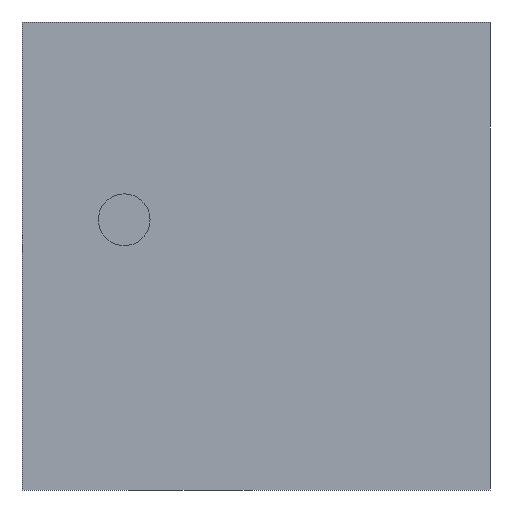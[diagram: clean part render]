
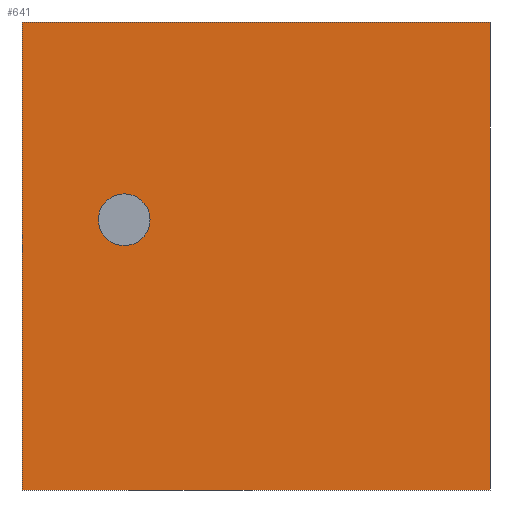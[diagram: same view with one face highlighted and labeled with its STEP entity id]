
A CAD part, front view. The second image highlights one B-rep face of the part: STEP entity #641.
In plain terms, the highlighted planar face has unit normal (0, -1, 0).
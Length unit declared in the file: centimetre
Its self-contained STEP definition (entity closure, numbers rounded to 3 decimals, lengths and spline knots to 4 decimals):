
#13 = DIRECTION ( 'NONE',  ( 0., 0., -1. ) ) ;
#24 = FACE_OUTER_BOUND ( 'NONE', #771, .T. ) ;
#42 = VECTOR ( 'NONE', #670, 100. ) ;
#56 = VECTOR ( 'NONE', #731, 100. ) ;
#93 = CARTESIAN_POINT ( 'NONE',  ( 0., 0., 0. ) ) ;
#113 = DIRECTION ( 'NONE',  ( 0., 0., 1. ) ) ;
#114 = CARTESIAN_POINT ( 'NONE',  ( 218.4011, 0., 577.5313 ) ) ;
#130 = CARTESIAN_POINT ( 'NONE',  ( 0., 0., 1000. ) ) ;
#131 = VERTEX_POINT ( 'NONE', #93 ) ;
#133 = CARTESIAN_POINT ( 'NONE',  ( 0., 0., 1000. ) ) ;
#157 = ORIENTED_EDGE ( 'NONE', *, *, #449, .F. ) ;
#175 = CARTESIAN_POINT ( 'NONE',  ( 1000., 0., 1000. ) ) ;
#181 = ORIENTED_EDGE ( 'NONE', *, *, #504, .F. ) ;
#184 = VERTEX_POINT ( 'NONE', #937 ) ;
#185 = LINE ( 'NONE', #991, #326 ) ;
#193 = EDGE_CURVE ( 'NONE', #184, #496, #1066, .T. ) ;
#220 = CIRCLE ( 'NONE', #865, 55.3124 ) ;
#245 = VECTOR ( 'NONE', #414, 100. ) ;
#311 = EDGE_CURVE ( 'NONE', #1058, #735, #325, .T. ) ;
#325 = LINE ( 'NONE', #984, #245 ) ;
#326 = VECTOR ( 'NONE', #543, 100. ) ;
#354 = EDGE_CURVE ( 'NONE', #131, #492, #185, .T. ) ;
#376 = DIRECTION ( 'NONE',  ( 0., 0., -1. ) ) ;
#412 = AXIS2_PLACEMENT_3D ( 'NONE', #114, #544, #13 ) ;
#414 = DIRECTION ( 'NONE',  ( 1., 0., 0. ) ) ;
#449 = EDGE_CURVE ( 'NONE', #735, #492, #1011, .T. ) ;
#492 = VERTEX_POINT ( 'NONE', #1017 ) ;
#496 = VERTEX_POINT ( 'NONE', #954 ) ;
#504 = EDGE_CURVE ( 'NONE', #496, #184, #220, .T. ) ;
#512 = EDGE_CURVE ( 'NONE', #1058, #131, #1110, .T. ) ;
#543 = DIRECTION ( 'NONE',  ( 1., 0., 0. ) ) ;
#544 = DIRECTION ( 'NONE',  ( 0., -1., 0. ) ) ;
#585 = DIRECTION ( 'NONE',  ( 0., -1., 0. ) ) ;
#597 = ORIENTED_EDGE ( 'NONE', *, *, #512, .T. ) ;
#641 = ADVANCED_FACE ( 'NONE', ( #751, #24 ), #662, .F. ) ;
#662 = PLANE ( 'NONE',  #962 ) ;
#670 = DIRECTION ( 'NONE',  ( 0., 0., -1. ) ) ;
#731 = DIRECTION ( 'NONE',  ( 0., 0., -1. ) ) ;
#735 = VERTEX_POINT ( 'NONE', #175 ) ;
#751 = FACE_BOUND ( 'NONE', #973, .T. ) ;
#771 = EDGE_LOOP ( 'NONE', ( #990, #157, #794, #597 ) ) ;
#794 = ORIENTED_EDGE ( 'NONE', *, *, #311, .F. ) ;
#802 = ORIENTED_EDGE ( 'NONE', *, *, #193, .F. ) ;
#848 = DIRECTION ( 'NONE',  ( 0., 1., 0. ) ) ;
#855 = CARTESIAN_POINT ( 'NONE',  ( 0., 0., 1000. ) ) ;
#864 = CARTESIAN_POINT ( 'NONE',  ( 218.4011, 0., 577.5313 ) ) ;
#865 = AXIS2_PLACEMENT_3D ( 'NONE', #864, #585, #376 ) ;
#937 = CARTESIAN_POINT ( 'NONE',  ( 218.4011, 0., 632.8438 ) ) ;
#954 = CARTESIAN_POINT ( 'NONE',  ( 218.4011, 0., 522.2189 ) ) ;
#962 = AXIS2_PLACEMENT_3D ( 'NONE', #855, #848, #113 ) ;
#973 = EDGE_LOOP ( 'NONE', ( #181, #802 ) ) ;
#984 = CARTESIAN_POINT ( 'NONE',  ( 0., 0., 1000. ) ) ;
#990 = ORIENTED_EDGE ( 'NONE', *, *, #354, .T. ) ;
#991 = CARTESIAN_POINT ( 'NONE',  ( 0., 0., 0. ) ) ;
#1000 = CARTESIAN_POINT ( 'NONE',  ( 1000., 0., 1000. ) ) ;
#1011 = LINE ( 'NONE', #1000, #56 ) ;
#1017 = CARTESIAN_POINT ( 'NONE',  ( 1000., 0., 0. ) ) ;
#1058 = VERTEX_POINT ( 'NONE', #130 ) ;
#1066 = CIRCLE ( 'NONE', #412, 55.3124 ) ;
#1110 = LINE ( 'NONE', #133, #42 ) ;
